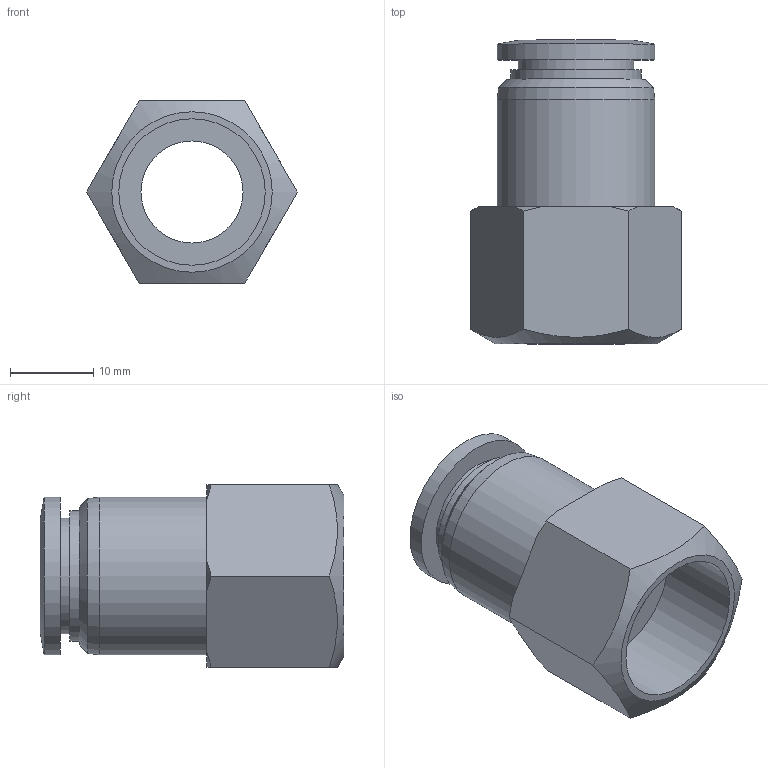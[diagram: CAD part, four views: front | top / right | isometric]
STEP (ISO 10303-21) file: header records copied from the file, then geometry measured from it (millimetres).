
FILE_DESCRIPTION(('HOOPS Exchange Step'),'2;1');
FILE_NAME('/private/var/mobile/Containers/Data/Application/1606885C-1F6A-4C16-ADE5-2EBBFD4A2795/tmp/export/temp_export','2024-08-12T09:08:55+02:00',('mobile'),('Shapr3D Limited'),'HOOPS Exchange 2024.2','Shapr3D','Authorized');
FILE_SCHEMA( ('AP242_MANAGED_MODEL_BASED_3D_ENGINEERING_MIM_LF {1 0 10303 442 1 1 4 }') );
Length unit declared in the file: millimetre
Products named in the file (2): R1/2-D12.x_t; root
Assembly tree (1 placements, depth 2):
  root
    R1/2-D12.x_t
Bounding box: 25.4 x 36.6 x 22 mm (x, y, z)
Volume: 6524.8 mm3; surface area: 4730.5 mm2
Topology: 1 solids, 1 shells, 30 faces, 67 edges, 44 vertices
Faces by surface type: plane 13, cone 10, cylinder 6, torus 1
Full cylindrical faces by diameter (mm): 12.3 x1, 13.9 x1, 15.7 x1, 17.645 x1, 19 x2
Entity records: 1024 total; most frequent: CARTESIAN_POINT 289, DIRECTION 142, ORIENTED_EDGE 134, EDGE_CURVE 67, AXIS2_PLACEMENT_3D 60, VERTEX_POINT 44, EDGE_LOOP 37, FACE_BOUND 37
